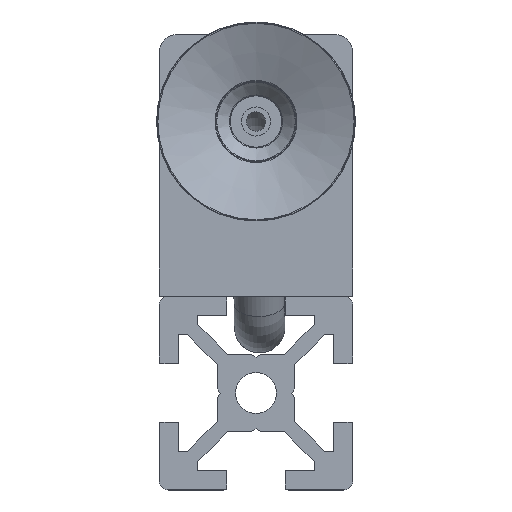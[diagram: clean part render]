
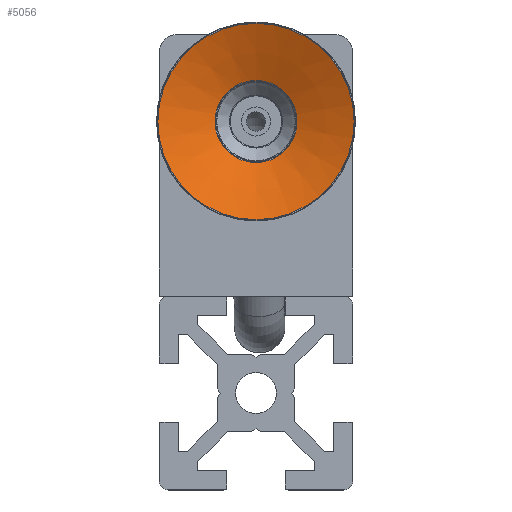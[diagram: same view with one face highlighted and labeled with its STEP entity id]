
A CAD part, front view. The second image highlights one B-rep face of the part: STEP entity #5056.
In plain terms, the highlighted conical face has half-angle 67.424 degrees and reference radius 7.062 mm.
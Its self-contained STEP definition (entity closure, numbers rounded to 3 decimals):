
#816=CONICAL_SURFACE('',#5506,7.062,1.177);
#1000=LINE('',#7702,#1323);
#1323=VECTOR('',#6170,7.062);
#1708=FACE_OUTER_BOUND('',#1946,.T.);
#1946=EDGE_LOOP('',(#3469,#3470,#3471,#3472));
#2219=CIRCLE('',#5505,4.226);
#2220=CIRCLE('',#5507,10.123);
#2459=VERTEX_POINT('',#7696);
#2460=VERTEX_POINT('',#7700);
#2857=EDGE_CURVE('',#2459,#2459,#2219,.T.);
#2858=EDGE_CURVE('',#2460,#2460,#2220,.T.);
#2859=EDGE_CURVE('',#2460,#2459,#1000,.T.);
#3469=ORIENTED_EDGE('',*,*,#2858,.T.);
#3470=ORIENTED_EDGE('',*,*,#2859,.T.);
#3471=ORIENTED_EDGE('',*,*,#2857,.F.);
#3472=ORIENTED_EDGE('',*,*,#2859,.F.);
#5056=ADVANCED_FACE('',(#1708),#816,.F.);
#5505=AXIS2_PLACEMENT_3D('',#7698,#6164,#6165);
#5506=AXIS2_PLACEMENT_3D('',#7699,#6166,#6167);
#5507=AXIS2_PLACEMENT_3D('',#7701,#6168,#6169);
#6164=DIRECTION('center_axis',(0.,-1.,0.));
#6165=DIRECTION('ref_axis',(0.,0.,1.));
#6166=DIRECTION('center_axis',(0.,-1.,0.));
#6167=DIRECTION('ref_axis',(0.,0.,-1.));
#6168=DIRECTION('center_axis',(0.,-1.,0.));
#6169=DIRECTION('ref_axis',(1.,0.,0.));
#6170=DIRECTION('',(0.,0.384,-0.923));
#7696=CARTESIAN_POINT('',(0.,2.406,4.226));
#7698=CARTESIAN_POINT('Origin',(0.,2.406,0.));
#7699=CARTESIAN_POINT('Origin',(0.,1.227,0.));
#7700=CARTESIAN_POINT('',(0.,-0.046,10.123));
#7701=CARTESIAN_POINT('Origin',(0.,-0.046,0.));
#7702=CARTESIAN_POINT('',(0.,1.227,7.062));
